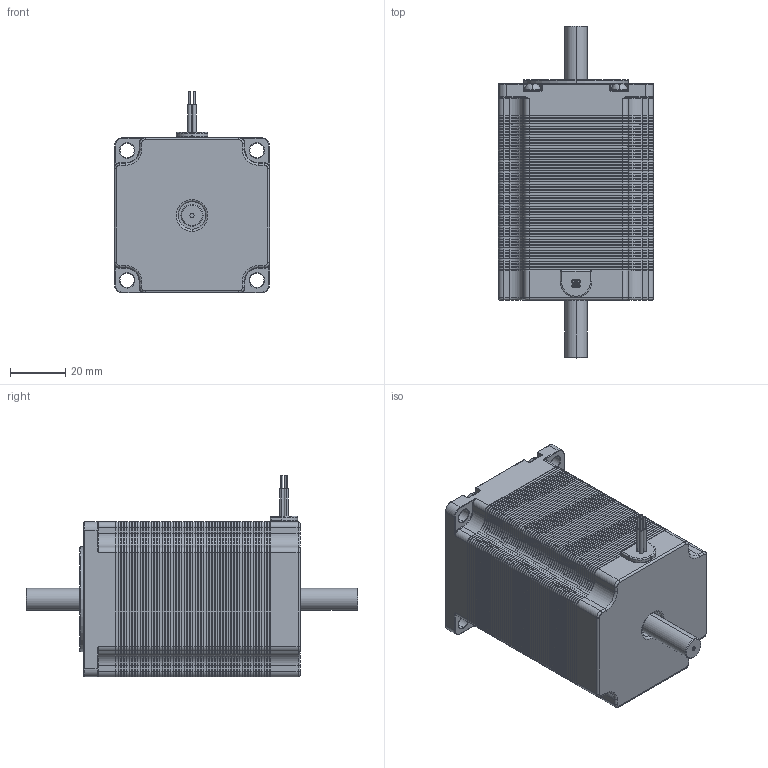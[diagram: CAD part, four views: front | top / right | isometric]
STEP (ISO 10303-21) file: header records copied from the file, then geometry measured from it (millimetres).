
FILE_DESCRIPTION (( 'STEP AP214' ), '1' );
FILE_NAME ('Nema 23 Stepper Motor length 80mm_DS_8mm.STEP', '2020-11-11T12:02:56', ( 'Moofasta' ), ( '' ), 'SwSTEP 2.0', 'SolidWorks 2020', '' );
FILE_SCHEMA (( 'AUTOMOTIVE_DESIGN' ));
Length unit declared in the file: millimetre
Products named in the file (1): Nema 23 Stepper Motor length 80mm_DS_8mm
Bounding box: 56.3 x 120.5 x 73.3 mm (x, y, z)
Volume: 228348.3 mm3; surface area: 349075.9 mm2
Topology: 72 solids, 72 shells, 4620 faces, 10500 edges, 6010 vertices
Faces by surface type: plane 2298, cone 1372, cylinder 836, torus 94, sphere 12, bspline 8
Entity records: 172855 total; most frequent: DIRECTION 22822, CARTESIAN_POINT 21559, ORIENTED_EDGE 20960, EDGE_CURVE 10480, AXIS2_PLACEMENT_3D 7801, VECTOR 7220, LINE 7220, VERTEX_POINT 6010
